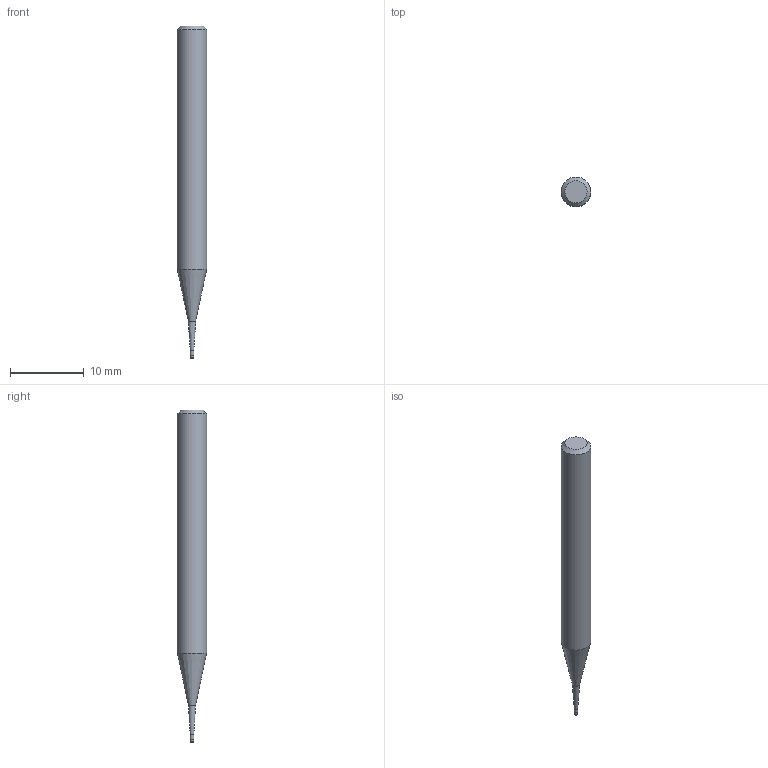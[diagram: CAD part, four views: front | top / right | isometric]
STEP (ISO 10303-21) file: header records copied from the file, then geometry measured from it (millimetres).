
FILE_DESCRIPTION((''),'2;1');
FILE_NAME('C:\Users\nsx150\AppData\Local\Temp\Mastercam 2021\YKS1SUSFZB\TEMP.step','2025-06-23T14:03:30',(''),(''),'STEP Write','Mastercam 2021 ... CNC Software, Inc.','');
FILE_SCHEMA(('AUTOMOTIVE_DESIGN'));
Length unit declared in the file: millimetre
Products named in the file (1): None
Bounding box: 4 x 4 x 45 mm (x, y, z)
Volume: 453.3 mm3; surface area: 490.6 mm2
Topology: 2 solids, 2 shells, 11 faces, 16 edges, 9 vertices
Faces by surface type: plane 4, cylinder 3, cone 3, torus 1
Full cylindrical faces by diameter (mm): 0.48 x1, 0.5 x1, 4 x1
Entity records: 253 total; most frequent: DIRECTION 44, CARTESIAN_POINT 31, AXIS2_PLACEMENT_3D 22, ORIENTED_EDGE 18, EDGE_LOOP 18, STYLED_ITEM 14, ADVANCED_FACE 11, FACE_BOUND 11
